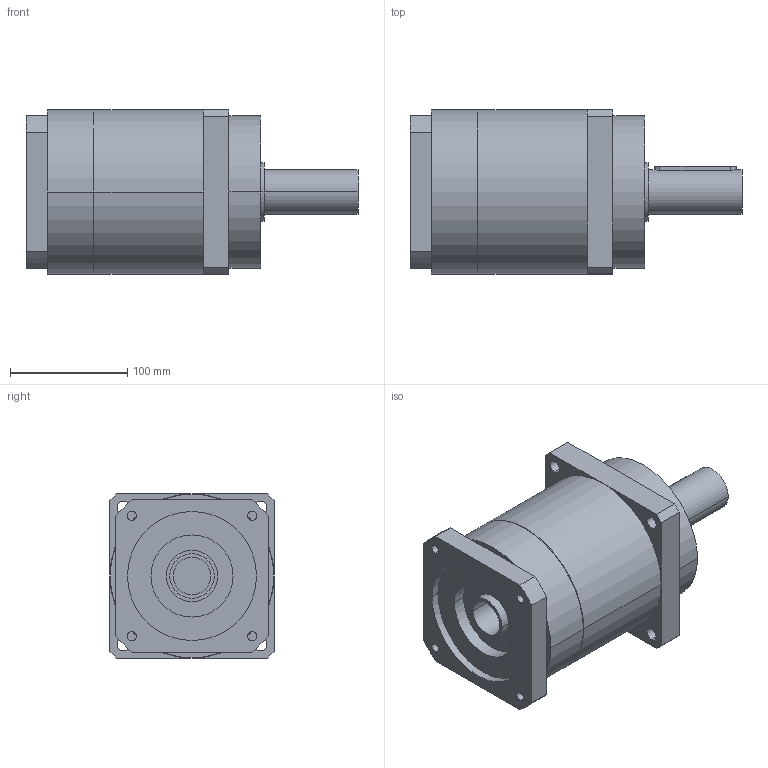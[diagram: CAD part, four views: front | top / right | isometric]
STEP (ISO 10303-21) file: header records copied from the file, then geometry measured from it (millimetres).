
FILE_DESCRIPTION(('CoCreate Modeling STEP Export'),'2;1');
FILE_NAME('GPR150_ig-3-4-5-7_38_B5_32_P08.stp','2014-08-19T16:42:59',(''),(''),'CoCreate Modeling STEP processor for AP214 (Solid Model)','CoCreate Modeling 16.00C 25-Feb-2009 (C) Parametric Technology GmbH','');
FILE_SCHEMA(('AUTOMOTIVE_DESIGN { 1 0 10303 214 1 1 1 1 }'));
Length unit declared in the file: millimetre
Products named in the file (2): GPR150_ig-3-4-5-7_38_B5_32_P08
Assembly tree (1 placements, depth 2):
  GPR150_ig-3-4-5-7_38_B5_32_P08
    GPR150_ig-3-4-5-7_38_B5_32_P08
Bounding box: 283 x 140 x 140 mm (x, y, z)
Volume: 3056630.6 mm3; surface area: 161569 mm2
Topology: 1 solids, 1 shells, 92 faces, 247 edges, 161 vertices
Faces by surface type: cylinder 48, plane 38, cone 6
Entity records: 2492 total; most frequent: ORIENTED_EDGE 490, CARTESIAN_POINT 451, DIRECTION 344, EDGE_CURVE 245, VERTEX_POINT 161, AXIS2_PLACEMENT_3D 126, EDGE_LOOP 114, VECTOR 92
